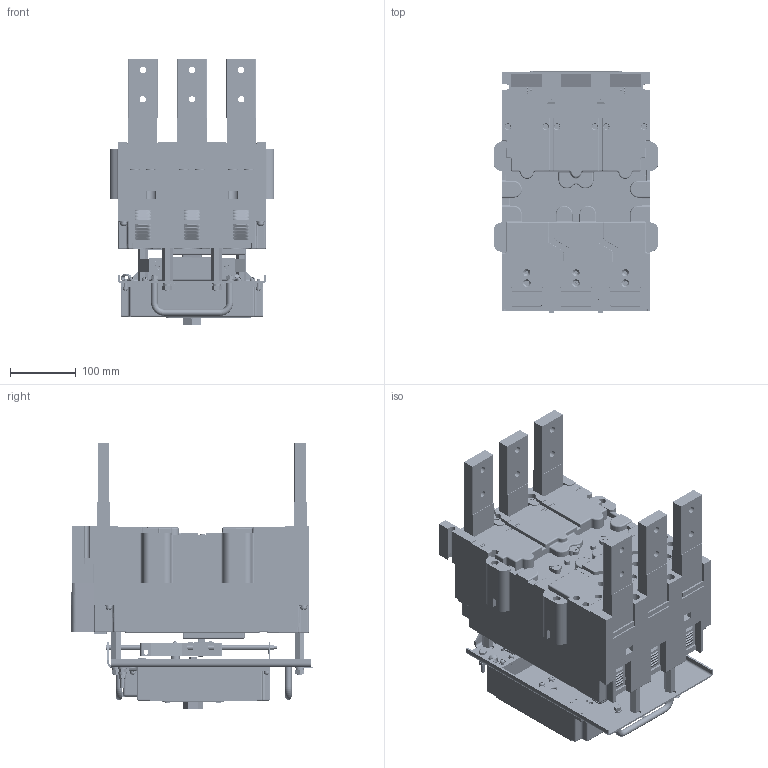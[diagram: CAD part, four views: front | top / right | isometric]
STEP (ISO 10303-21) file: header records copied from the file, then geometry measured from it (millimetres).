
FILE_DESCRIPTION (( 'STEP AP203' ), '1' );
FILE_NAME ('ﾂﾀ53(55)-41 ﾇﾏ+ﾝﾌﾏ.STEP', '2016-09-28T10:59:26', ( 'admin' ), ( '' ), 'SwSTEP 2.0', 'SolidWorks 2012', '' );
FILE_SCHEMA (( 'CONFIG_CONTROL_DESIGN' ));
Products named in the file (1): ﾂﾀ53(55)-41 ﾇﾏ+ﾝﾌﾏ
Bounding box: 250 x 368.27 x 407.15 mm (x, y, z)
Volume: 12710275.2 mm3; surface area: 1974631.2 mm2
Topology: 254 solids, 256 shells, 11211 faces, 28491 edges, 18161 vertices
Faces by surface type: plane 5833, cylinder 2974, bspline 1375, cone 713, torus 244, sphere 72
Entity records: 397527 total; most frequent: CARTESIAN_POINT 134120, ORIENTED_EDGE 56794, DIRECTION 50687, EDGE_CURVE 28397, VERTEX_POINT 18161, LINE 17749, VECTOR 17749, AXIS2_PLACEMENT_3D 16469
